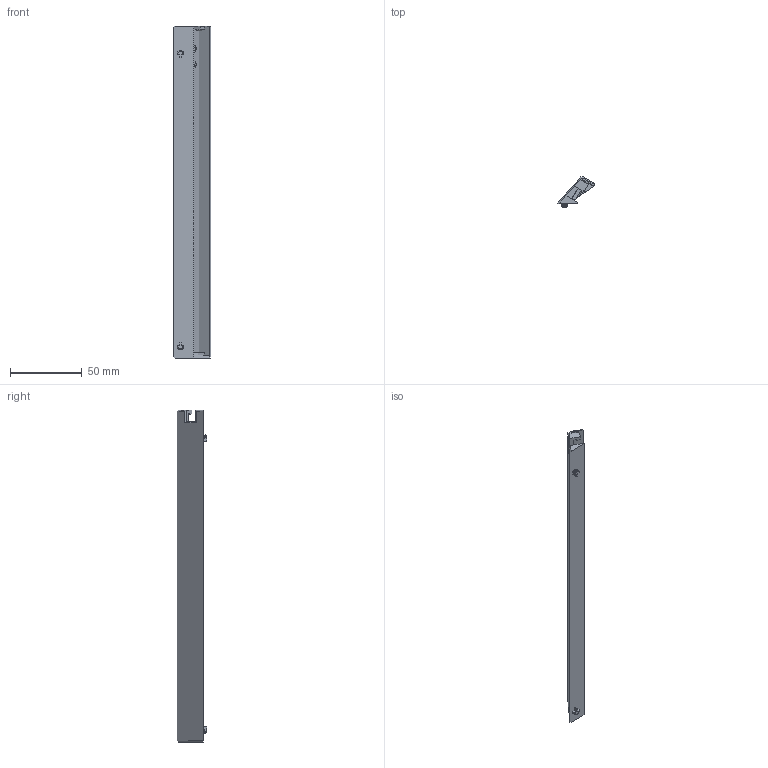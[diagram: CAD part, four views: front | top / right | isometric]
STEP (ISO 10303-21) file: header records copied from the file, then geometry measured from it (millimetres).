
FILE_DESCRIPTION (( 'STEP AP203' ), '1' );
FILE_NAME ('腑沭嘐隅啣-0.2.STEP', '2025-06-23T02:06:23', ( '' ), ( '' ), 'SwSTEP 2.0', 'SolidWorks 2014', '' );
FILE_SCHEMA (( 'CONFIG_CONTROL_DESIGN' ));
Length unit declared in the file: millimetre
Products named in the file (1): 腑沭嘐隅啣-0.2
Bounding box: 26.12 x 20.46 x 230.7 mm (x, y, z)
Volume: 28044.5 mm3; surface area: 19156.9 mm2
Topology: 1 solids, 1 shells, 86 faces, 229 edges, 151 vertices
Faces by surface type: plane 71, bspline 9, cylinder 4, cone 2
Entity records: 4044 total; most frequent: CARTESIAN_POINT 1890, ORIENTED_EDGE 458, DIRECTION 369, EDGE_CURVE 229, LINE 197, VECTOR 197, VERTEX_POINT 151, EDGE_LOOP 92
